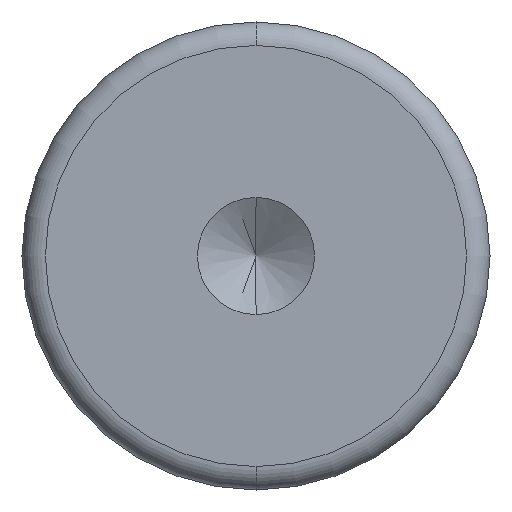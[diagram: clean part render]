
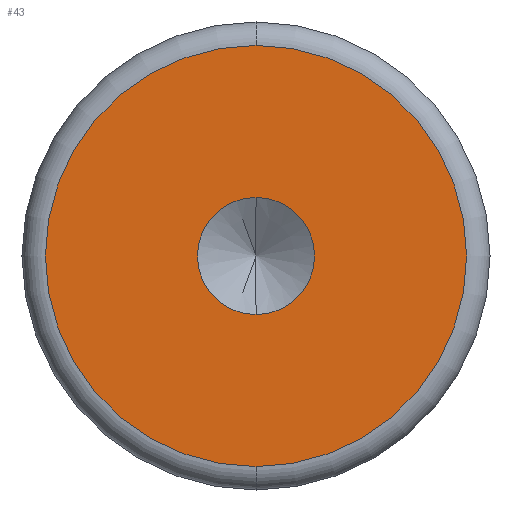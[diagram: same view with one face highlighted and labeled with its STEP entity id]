
A CAD part, front view. The second image highlights one B-rep face of the part: STEP entity #43.
In plain terms, the highlighted planar face has unit normal (0, -1, 0).
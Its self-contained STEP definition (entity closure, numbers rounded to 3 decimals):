
#28 = EDGE_CURVE ( 'NONE', #280, #70, #331, .T. ) ;
#39 = CARTESIAN_POINT ( 'NONE',  ( 0., 0., 0. ) ) ;
#43 = ADVANCED_FACE ( 'NONE', ( #251, #450 ), #241, .F. ) ;
#62 = ORIENTED_EDGE ( 'NONE', *, *, #277, .T. ) ;
#65 = CIRCLE ( 'NONE', #137, 9. ) ;
#69 = EDGE_CURVE ( 'NONE', #149, #365, #452, .T. ) ;
#70 = VERTEX_POINT ( 'NONE', #330 ) ;
#73 = CIRCLE ( 'NONE', #518, 2.5 ) ;
#81 = ORIENTED_EDGE ( 'NONE', *, *, #360, .F. ) ;
#93 = AXIS2_PLACEMENT_3D ( 'NONE', #39, #116, #105 ) ;
#102 = EDGE_LOOP ( 'NONE', ( #449, #81 ) ) ;
#105 = DIRECTION ( 'NONE',  ( 0., 0., 1. ) ) ;
#116 = DIRECTION ( 'NONE',  ( 0., -1., 0. ) ) ;
#127 = CARTESIAN_POINT ( 'NONE',  ( 0., 0., 0. ) ) ;
#132 = CARTESIAN_POINT ( 'NONE',  ( 0., 0., 0. ) ) ;
#137 = AXIS2_PLACEMENT_3D ( 'NONE', #127, #222, #262 ) ;
#149 = VERTEX_POINT ( 'NONE', #219 ) ;
#177 = DIRECTION ( 'NONE',  ( 0., 0., -1. ) ) ;
#206 = DIRECTION ( 'NONE',  ( 0., 1., 0. ) ) ;
#216 = CARTESIAN_POINT ( 'NONE',  ( 0., 0., 2.5 ) ) ;
#219 = CARTESIAN_POINT ( 'NONE',  ( 0., 0., -2.5 ) ) ;
#222 = DIRECTION ( 'NONE',  ( 0., -1., 0. ) ) ;
#236 = AXIS2_PLACEMENT_3D ( 'NONE', #531, #326, #445 ) ;
#241 = PLANE ( 'NONE',  #468 ) ;
#245 = ORIENTED_EDGE ( 'NONE', *, *, #28, .T. ) ;
#251 = FACE_OUTER_BOUND ( 'NONE', #372, .T. ) ;
#262 = DIRECTION ( 'NONE',  ( 0., 0., 1. ) ) ;
#277 = EDGE_CURVE ( 'NONE', #70, #280, #65, .T. ) ;
#280 = VERTEX_POINT ( 'NONE', #297 ) ;
#297 = CARTESIAN_POINT ( 'NONE',  ( 0., 0., 9. ) ) ;
#304 = DIRECTION ( 'NONE',  ( 0., -1., 0. ) ) ;
#326 = DIRECTION ( 'NONE',  ( 0., -1., 0. ) ) ;
#330 = CARTESIAN_POINT ( 'NONE',  ( 0., 0., -9. ) ) ;
#331 = CIRCLE ( 'NONE', #93, 9. ) ;
#360 = EDGE_CURVE ( 'NONE', #365, #149, #73, .T. ) ;
#365 = VERTEX_POINT ( 'NONE', #216 ) ;
#372 = EDGE_LOOP ( 'NONE', ( #245, #62 ) ) ;
#410 = DIRECTION ( 'NONE',  ( 0., 0., 1. ) ) ;
#445 = DIRECTION ( 'NONE',  ( 0., 0., -1. ) ) ;
#449 = ORIENTED_EDGE ( 'NONE', *, *, #69, .F. ) ;
#450 = FACE_BOUND ( 'NONE', #102, .T. ) ;
#452 = CIRCLE ( 'NONE', #236, 2.5 ) ;
#468 = AXIS2_PLACEMENT_3D ( 'NONE', #526, #206, #410 ) ;
#518 = AXIS2_PLACEMENT_3D ( 'NONE', #132, #304, #177 ) ;
#526 = CARTESIAN_POINT ( 'NONE',  ( 0., 0., 0. ) ) ;
#531 = CARTESIAN_POINT ( 'NONE',  ( 0., 0., 0. ) ) ;
